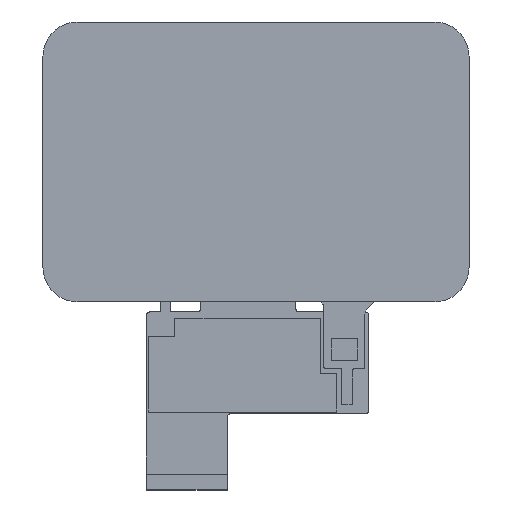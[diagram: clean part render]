
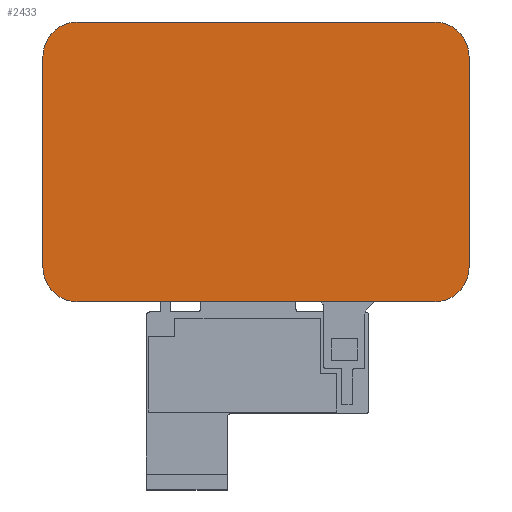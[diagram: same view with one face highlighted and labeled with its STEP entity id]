
A CAD part, top view. The second image highlights one B-rep face of the part: STEP entity #2433.
In plain terms, the highlighted planar face has unit normal (0, 0, 1).
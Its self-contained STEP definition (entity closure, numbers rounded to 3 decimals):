
#334=CARTESIAN_POINT('',(56.3,33.3,3.25));
#335=DIRECTION('',(0.,0.,-1.));
#336=DIRECTION('',(0.,1.,0.));
#337=AXIS2_PLACEMENT_3D('',#334,#335,#336);
#339=DIRECTION('',(0.,-1.,0.));
#340=VECTOR('',#339,66.6);
#341=CARTESIAN_POINT('',(67.,33.3,3.25));
#342=LINE('',#341,#340);
#343=CARTESIAN_POINT('',(56.3,-33.3,3.25));
#344=DIRECTION('',(0.,0.,-1.));
#345=DIRECTION('',(1.,0.,0.));
#346=AXIS2_PLACEMENT_3D('',#343,#344,#345);
#348=DIRECTION('',(-1.,0.,0.));
#349=VECTOR('',#348,112.6);
#350=CARTESIAN_POINT('',(56.3,-44.,3.25));
#351=LINE('',#350,#349);
#352=CARTESIAN_POINT('',(-56.3,-33.3,3.25));
#353=DIRECTION('',(0.,0.,-1.));
#354=DIRECTION('',(0.,-1.,0.));
#355=AXIS2_PLACEMENT_3D('',#352,#353,#354);
#357=DIRECTION('',(0.,1.,0.));
#358=VECTOR('',#357,66.6);
#359=CARTESIAN_POINT('',(-67.,-33.3,3.25));
#360=LINE('',#359,#358);
#361=CARTESIAN_POINT('',(-56.3,33.3,3.25));
#362=DIRECTION('',(0.,0.,-1.));
#363=DIRECTION('',(-1.,0.,0.));
#364=AXIS2_PLACEMENT_3D('',#361,#362,#363);
#366=DIRECTION('',(1.,0.,0.));
#367=VECTOR('',#366,112.6);
#368=CARTESIAN_POINT('',(-56.3,44.,3.25));
#369=LINE('',#368,#367);
#1664=CARTESIAN_POINT('',(67.,33.3,3.25));
#1665=VERTEX_POINT('',#1664);
#1666=CARTESIAN_POINT('',(56.3,44.,3.25));
#1667=VERTEX_POINT('',#1666);
#1668=CARTESIAN_POINT('',(67.,-33.3,3.25));
#1669=VERTEX_POINT('',#1668);
#1670=CARTESIAN_POINT('',(56.3,-44.,3.25));
#1671=VERTEX_POINT('',#1670);
#1672=CARTESIAN_POINT('',(-56.3,-44.,3.25));
#1673=VERTEX_POINT('',#1672);
#1674=CARTESIAN_POINT('',(-67.,-33.3,3.25));
#1675=VERTEX_POINT('',#1674);
#1676=CARTESIAN_POINT('',(-67.,33.3,3.25));
#1677=VERTEX_POINT('',#1676);
#1678=CARTESIAN_POINT('',(-56.3,44.,3.25));
#1679=VERTEX_POINT('',#1678);
#2418=CARTESIAN_POINT('',(0.,0.,3.25));
#2419=DIRECTION('',(0.,0.,1.));
#2420=DIRECTION('',(1.,0.,0.));
#2421=AXIS2_PLACEMENT_3D('',#2418,#2419,#2420);
#2422=PLANE('',#2421);
#2423=ORIENTED_EDGE('',*,*,#2314,.T.);
#2424=ORIENTED_EDGE('',*,*,#2329,.T.);
#2425=ORIENTED_EDGE('',*,*,#2343,.T.);
#2426=ORIENTED_EDGE('',*,*,#2357,.T.);
#2427=ORIENTED_EDGE('',*,*,#2371,.T.);
#2428=ORIENTED_EDGE('',*,*,#2385,.T.);
#2429=ORIENTED_EDGE('',*,*,#2399,.T.);
#2430=ORIENTED_EDGE('',*,*,#2412,.T.);
#2431=EDGE_LOOP('',(#2423,#2424,#2425,#2426,#2427,#2428,#2429,#2430));
#2432=FACE_OUTER_BOUND('',#2431,.F.);
#338=CIRCLE('',#337,10.7);
#347=CIRCLE('',#346,10.7);
#356=CIRCLE('',#355,10.7);
#365=CIRCLE('',#364,10.7);
#2314=EDGE_CURVE('',#1667,#1665,#338,.T.);
#2329=EDGE_CURVE('',#1665,#1669,#342,.T.);
#2343=EDGE_CURVE('',#1669,#1671,#347,.T.);
#2357=EDGE_CURVE('',#1671,#1673,#351,.T.);
#2371=EDGE_CURVE('',#1673,#1675,#356,.T.);
#2385=EDGE_CURVE('',#1675,#1677,#360,.T.);
#2399=EDGE_CURVE('',#1677,#1679,#365,.T.);
#2412=EDGE_CURVE('',#1679,#1667,#369,.T.);
#2433=ADVANCED_FACE('',(#2432),#2422,.T.);
